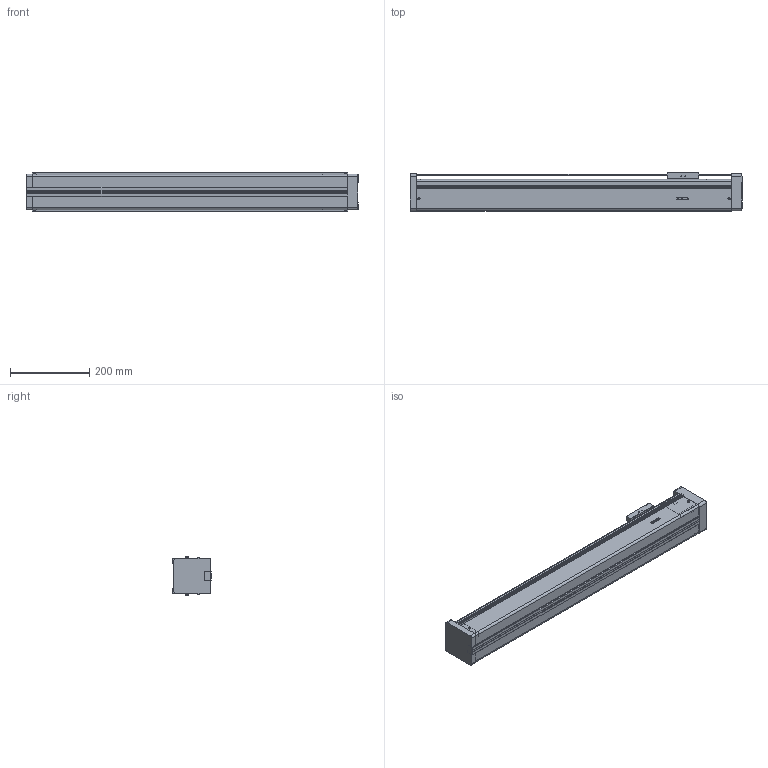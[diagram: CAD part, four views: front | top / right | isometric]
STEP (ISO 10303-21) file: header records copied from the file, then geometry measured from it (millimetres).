
FILE_DESCRIPTION(/* description */ (''),/* implementation_level */ '2;1');
FILE_NAME(/* name */ 'D:\混合母檔20191031\混和母檔\混和母檔\bin\Debug\Download\3D\KE9010C-600AF0\KE9010C-600AF0.stp',/* time_stamp */ '2019-11-04T14:26:53+08:00',/* author */ ('user'),/* organization */ (''),/* preprocessor_version */ 'ST-DEVELOPER v16.13',/* originating_system */ 'Autodesk Inventor 2018',/* authorisation */ '');
FILE_SCHEMA (('AUTOMOTIVE_DESIGN { 1 0 10303 214 3 1 1 }'));
Length unit declared in the file: millimetre
Products named in the file (3): KE9010C-600AF0; KE90-F0-BP; KE90-SL
Assembly tree (2 placements, depth 2):
  KE9010C-600AF0
    KE90-F0-BP
    KE90-SL
Bounding box: 836 x 98 x 98.4 mm (x, y, z)
Volume: 5818312.5 mm3; surface area: 524775.8 mm2
Topology: 3 solids, 22 shells, 885 faces, 2342 edges, 1544 vertices
Faces by surface type: plane 494, bspline 136, cone 122, cylinder 85, torus 40, sphere 8
Full cylindrical faces by diameter (mm): 2.5 x16, 3 x2, 3.3 x4, 4.2 x4, 4.5 x6, 4.917 x12, 5 x9, 8 x7, 46 x1, 50 x1
Entity records: 30768 total; most frequent: CARTESIAN_POINT 9592, ORIENTED_EDGE 4382, DIRECTION 3885, EDGE_CURVE 2191, VERTEX_POINT 1501, AXIS2_PLACEMENT_3D 1320, LINE 1245, VECTOR 1245
